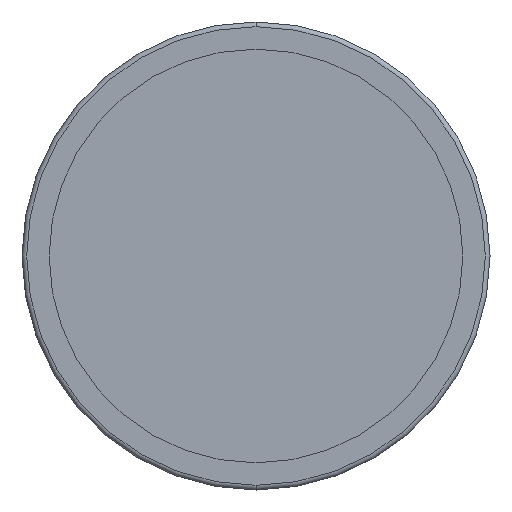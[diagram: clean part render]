
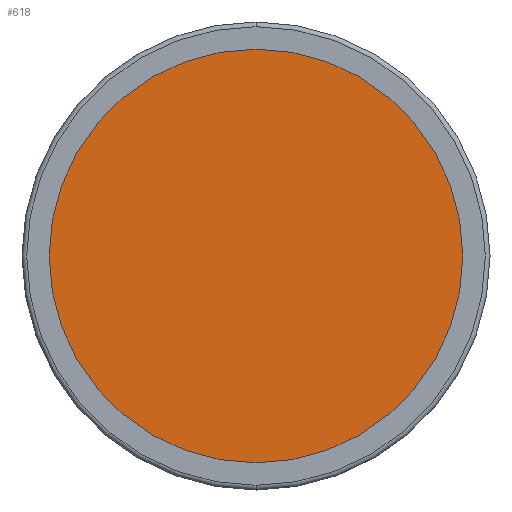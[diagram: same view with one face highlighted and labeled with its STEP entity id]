
A CAD part, front view. The second image highlights one B-rep face of the part: STEP entity #618.
In plain terms, the highlighted planar face has unit normal (0, -1, 0).
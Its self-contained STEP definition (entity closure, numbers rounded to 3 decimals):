
#102 = VERTEX_POINT ( 'NONE', #420 ) ;
#124 = ORIENTED_EDGE ( 'NONE', *, *, #1408, .F. ) ;
#355 = DIRECTION ( 'NONE',  ( 0., 0., 1. ) ) ;
#420 = CARTESIAN_POINT ( 'NONE',  ( 0., -3., -43.75 ) ) ;
#507 = EDGE_LOOP ( 'NONE', ( #124, #2020 ) ) ;
#618 = ADVANCED_FACE ( 'NONE', ( #1492 ), #2665, .T. ) ;
#738 = DIRECTION ( 'NONE',  ( 0., 1., 0. ) ) ;
#1202 = CARTESIAN_POINT ( 'NONE',  ( 0., -3., 0. ) ) ;
#1239 = VERTEX_POINT ( 'NONE', #2393 ) ;
#1408 = EDGE_CURVE ( 'NONE', #1239, #102, #2093, .T. ) ;
#1476 = DIRECTION ( 'NONE',  ( 0., -1., 0. ) ) ;
#1492 = FACE_OUTER_BOUND ( 'NONE', #507, .T. ) ;
#1526 = AXIS2_PLACEMENT_3D ( 'NONE', #2157, #1476, #1936 ) ;
#1635 = AXIS2_PLACEMENT_3D ( 'NONE', #1202, #738, #2212 ) ;
#1866 = AXIS2_PLACEMENT_3D ( 'NONE', #3039, #2567, #355 ) ;
#1868 = CIRCLE ( 'NONE', #1866, 43.75 ) ;
#1936 = DIRECTION ( 'NONE',  ( 0., 0., -1. ) ) ;
#2020 = ORIENTED_EDGE ( 'NONE', *, *, #2501, .F. ) ;
#2093 = CIRCLE ( 'NONE', #1635, 43.75 ) ;
#2157 = CARTESIAN_POINT ( 'NONE',  ( -43.75, -3., 0. ) ) ;
#2212 = DIRECTION ( 'NONE',  ( 0., 0., 1. ) ) ;
#2393 = CARTESIAN_POINT ( 'NONE',  ( 0., -3., 43.75 ) ) ;
#2501 = EDGE_CURVE ( 'NONE', #102, #1239, #1868, .T. ) ;
#2567 = DIRECTION ( 'NONE',  ( 0., 1., 0. ) ) ;
#2665 = PLANE ( 'NONE',  #1526 ) ;
#3039 = CARTESIAN_POINT ( 'NONE',  ( 0., -3., 0. ) ) ;
